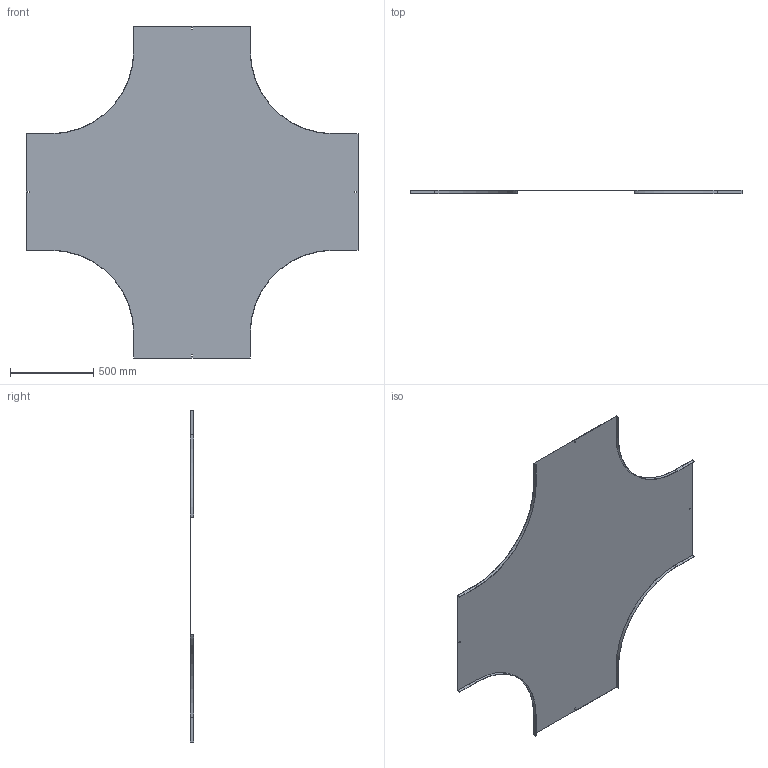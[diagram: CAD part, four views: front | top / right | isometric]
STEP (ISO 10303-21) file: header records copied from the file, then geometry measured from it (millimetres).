
FILE_DESCRIPTION (( 'STEP AP214' ), '1' );
FILE_NAME ('17N5R700.step', '2025-02-21T14:39:28', ( '' ), ( '' ), 'SwSTEP 2.0', 'SolidWorks 2023', '' );
FILE_SCHEMA (( 'AUTOMOTIVE_DESIGN' ));
Length unit declared in the file: millimetre
Products named in the file (1): 17N5R700
Bounding box: 2000 x 20 x 2000 mm (x, y, z)
Volume: 3916658.2 mm3; surface area: 5233335.1 mm2
Topology: 1 solids, 1 shells, 50 faces, 144 edges, 96 vertices
Faces by surface type: plane 42, cylinder 8
Entity records: 1663 total; most frequent: CARTESIAN_POINT 291, ORIENTED_EDGE 288, DIRECTION 262, EDGE_CURVE 144, LINE 128, VECTOR 128, VERTEX_POINT 96, AXIS2_PLACEMENT_3D 67
